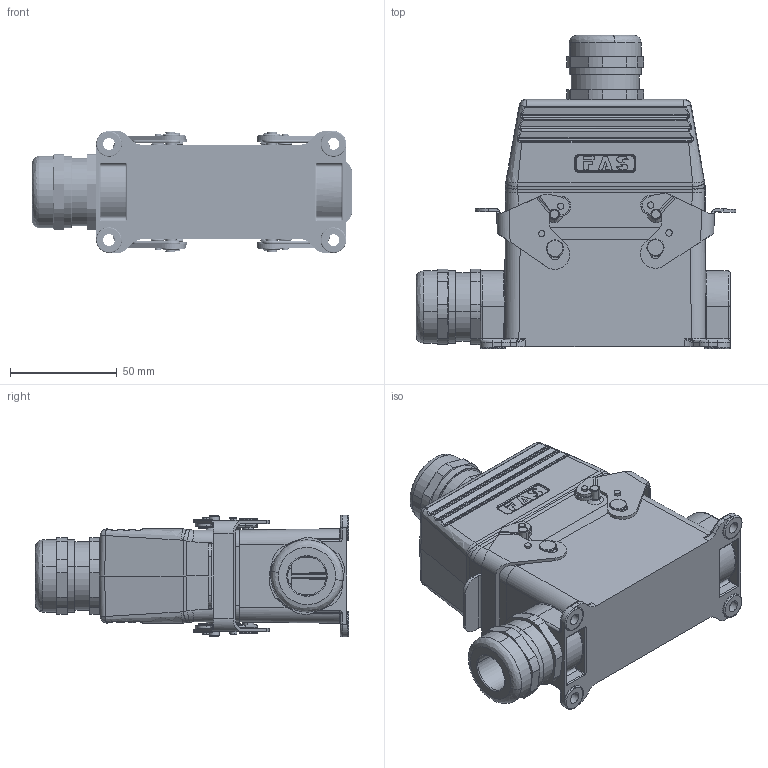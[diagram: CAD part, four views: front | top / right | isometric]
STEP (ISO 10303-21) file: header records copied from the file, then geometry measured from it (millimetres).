
FILE_DESCRIPTION (( 'STEP AP214' ), '1' );
FILE_NAME ('09116104225M HESH、16针、表面底座、顶出25套件、配金属接头.STEP', '2024-04-28T03:07:20', ( 'L' ), ( '' ), 'SwSTEP 2.0', 'SolidWorks 2019', '' );
FILE_SCHEMA (( 'AUTOMOTIVE_DESIGN' ));
Length unit declared in the file: millimetre
Products named in the file (6): HESH-016-F.stp; H16B-TG-M25.step; HESH-016-M.stp; H16B-SGR-M25.step; 09116104225M HESH、16针、表面底座、顶出25套件、配金属接头; FAS-25-M.step
Assembly tree (6 placements, depth 2):
  09116104225M HESH、16针、表面底座、顶出25套件、配金属接头
    HESH-016-M.stp
    HESH-016-F.stp
    H16B-TG-M25.step
    FAS-25-M.step  x2
    H16B-SGR-M25.step
Bounding box: 149.69 x 146.6 x 57 mm (x, y, z)
Volume: 212658 mm3; surface area: 157214.2 mm2
Topology: 5 solids, 13 shells, 4296 faces, 11155 edges, 7061 vertices
Faces by surface type: plane 2069, cylinder 1100, cone 494, bspline 313, torus 238, sphere 82
Entity records: 162206 total; most frequent: CARTESIAN_POINT 48687, ORIENTED_EDGE 21844, DIRECTION 20342, EDGE_CURVE 10928, AXIS2_PLACEMENT_3D 7031, VERTEX_POINT 6969, VECTOR 6280, LINE 6280
